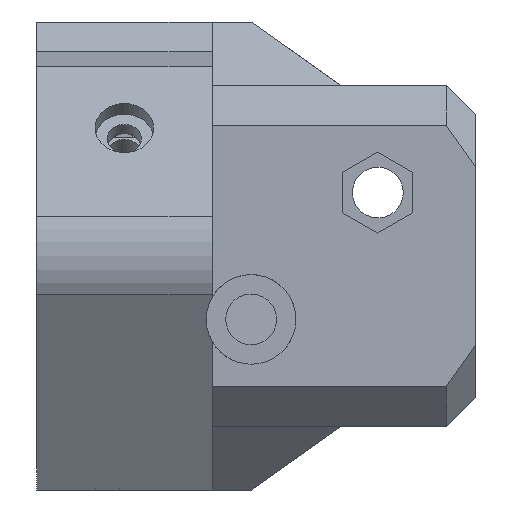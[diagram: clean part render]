
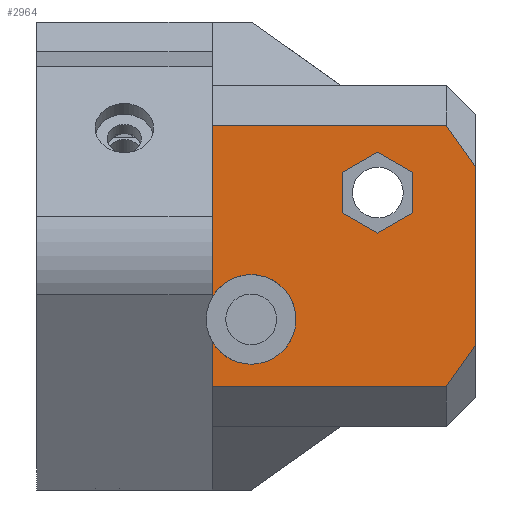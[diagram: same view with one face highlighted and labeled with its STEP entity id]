
A CAD part, left-side view. The second image highlights one B-rep face of the part: STEP entity #2964.
In plain terms, the highlighted planar face has unit normal (-1, 0, 0).
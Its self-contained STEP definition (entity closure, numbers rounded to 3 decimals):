
#65=FACE_BOUND('',#1098,.T.);
#144=LINE('',#4364,#483);
#145=LINE('',#4366,#484);
#146=LINE('',#4368,#485);
#147=LINE('',#4370,#486);
#148=LINE('',#4372,#487);
#149=LINE('',#4374,#488);
#150=LINE('',#4375,#489);
#151=LINE('',#4378,#490);
#152=LINE('',#4380,#491);
#153=LINE('',#4382,#492);
#154=LINE('',#4384,#493);
#155=LINE('',#4386,#494);
#156=LINE('',#4387,#495);
#483=VECTOR('',#3506,10.);
#484=VECTOR('',#3507,10.);
#485=VECTOR('',#3508,10.);
#486=VECTOR('',#3509,10.);
#487=VECTOR('',#3510,10.);
#488=VECTOR('',#3511,10.);
#489=VECTOR('',#3512,10.);
#490=VECTOR('',#3513,10.);
#491=VECTOR('',#3514,10.);
#492=VECTOR('',#3515,10.);
#493=VECTOR('',#3516,10.);
#494=VECTOR('',#3517,10.);
#495=VECTOR('',#3518,10.);
#799=PLANE('',#3165);
#925=FACE_OUTER_BOUND('',#1097,.T.);
#1097=EDGE_LOOP('',(#2166,#2167,#2168,#2169,#2170,#2171,#2172,#2173,#2174));
#1098=EDGE_LOOP('',(#2175,#2176,#2177,#2178,#2179,#2180));
#1307=CIRCLE('',#3166,4.6);
#1308=CIRCLE('',#3167,4.6);
#1423=VERTEX_POINT('',#4358);
#1424=VERTEX_POINT('',#4359);
#1425=VERTEX_POINT('',#4361);
#1426=VERTEX_POINT('',#4363);
#1427=VERTEX_POINT('',#4365);
#1428=VERTEX_POINT('',#4367);
#1429=VERTEX_POINT('',#4369);
#1430=VERTEX_POINT('',#4371);
#1431=VERTEX_POINT('',#4373);
#1432=VERTEX_POINT('',#4376);
#1433=VERTEX_POINT('',#4377);
#1434=VERTEX_POINT('',#4379);
#1435=VERTEX_POINT('',#4381);
#1436=VERTEX_POINT('',#4383);
#1437=VERTEX_POINT('',#4385);
#1715=EDGE_CURVE('',#1423,#1424,#1307,.T.);
#1716=EDGE_CURVE('',#1424,#1425,#1308,.T.);
#1717=EDGE_CURVE('',#1425,#1426,#144,.T.);
#1718=EDGE_CURVE('',#1426,#1427,#145,.T.);
#1719=EDGE_CURVE('',#1428,#1427,#146,.F.);
#1720=EDGE_CURVE('',#1429,#1428,#147,.T.);
#1721=EDGE_CURVE('',#1430,#1429,#148,.T.);
#1722=EDGE_CURVE('',#1431,#1430,#149,.T.);
#1723=EDGE_CURVE('',#1431,#1423,#150,.T.);
#1724=EDGE_CURVE('',#1432,#1433,#151,.T.);
#1725=EDGE_CURVE('',#1433,#1434,#152,.T.);
#1726=EDGE_CURVE('',#1434,#1435,#153,.T.);
#1727=EDGE_CURVE('',#1435,#1436,#154,.T.);
#1728=EDGE_CURVE('',#1436,#1437,#155,.T.);
#1729=EDGE_CURVE('',#1437,#1432,#156,.T.);
#2166=ORIENTED_EDGE('',*,*,#1715,.T.);
#2167=ORIENTED_EDGE('',*,*,#1716,.T.);
#2168=ORIENTED_EDGE('',*,*,#1717,.T.);
#2169=ORIENTED_EDGE('',*,*,#1718,.T.);
#2170=ORIENTED_EDGE('',*,*,#1719,.F.);
#2171=ORIENTED_EDGE('',*,*,#1720,.F.);
#2172=ORIENTED_EDGE('',*,*,#1721,.F.);
#2173=ORIENTED_EDGE('',*,*,#1722,.F.);
#2174=ORIENTED_EDGE('',*,*,#1723,.T.);
#2175=ORIENTED_EDGE('',*,*,#1724,.T.);
#2176=ORIENTED_EDGE('',*,*,#1725,.T.);
#2177=ORIENTED_EDGE('',*,*,#1726,.T.);
#2178=ORIENTED_EDGE('',*,*,#1727,.T.);
#2179=ORIENTED_EDGE('',*,*,#1728,.T.);
#2180=ORIENTED_EDGE('',*,*,#1729,.T.);
#2964=ADVANCED_FACE('',(#925,#65),#799,.T.);
#3165=AXIS2_PLACEMENT_3D('',#4357,#3500,#3501);
#3166=AXIS2_PLACEMENT_3D('',#4360,#3502,#3503);
#3167=AXIS2_PLACEMENT_3D('',#4362,#3504,#3505);
#3500=DIRECTION('center_axis',(-1.,0.,0.));
#3501=DIRECTION('ref_axis',(0.,0.,
-1.));
#3502=DIRECTION('center_axis',(1.,0.,0.));
#3503=DIRECTION('ref_axis',(0.,0.,
1.));
#3504=DIRECTION('center_axis',(1.,0.,0.));
#3505=DIRECTION('ref_axis',(0.,0.,
1.));
#3506=DIRECTION('',(0.,0.,-1.));
#3507=DIRECTION('',(0.,-1.,0.));
#3508=DIRECTION('',(0.,-0.577,0.816));
#3509=DIRECTION('',(0.,0.,-1.));
#3510=DIRECTION('',(0.,-0.577,-0.816));
#3511=DIRECTION('',(0.,-1.,0.));
#3512=DIRECTION('',(0.,0.,-1.));
#3513=DIRECTION('',(0.,-0.866,-0.5));
#3514=DIRECTION('',(0.,0.,-1.));
#3515=DIRECTION('',(0.,0.866,-0.5));
#3516=DIRECTION('',(0.,0.866,0.5));
#3517=DIRECTION('',(0.,0.,1.));
#3518=DIRECTION('',(0.,-0.866,0.5));
#4357=CARTESIAN_POINT('Origin',(-16.6,200.,17.5));
#4358=CARTESIAN_POINT('',(-16.6,200.,-4.228));
#4359=CARTESIAN_POINT('',(-16.6,196.,-11.1));
#4360=CARTESIAN_POINT('Origin',(-16.6,196.,-6.5));
#4361=CARTESIAN_POINT('',(-16.6,200.,-8.772));
#4362=CARTESIAN_POINT('Origin',(-16.6,196.,-6.5));
#4363=CARTESIAN_POINT('',(-16.6,200.,-13.4));
#4364=CARTESIAN_POINT('',(-16.6,200.,8.75));
#4365=CARTESIAN_POINT('',(-16.6,176.,-13.4));
#4366=CARTESIAN_POINT('',(-16.6,202.7,-13.4));
#4367=CARTESIAN_POINT('',(-16.6,173.,-9.157));
#4368=CARTESIAN_POINT('',(-16.6,170.543,-5.683));
#4369=CARTESIAN_POINT('',(-16.6,173.,9.157));
#4370=CARTESIAN_POINT('',(-16.6,173.,8.75));
#4371=CARTESIAN_POINT('',(-16.6,176.,13.4));
#4372=CARTESIAN_POINT('',(-16.6,178.934,17.55));
#4373=CARTESIAN_POINT('',(-16.6,200.,13.4));
#4374=CARTESIAN_POINT('',(-16.6,202.7,13.4));
#4375=CARTESIAN_POINT('',(-16.6,200.,8.75));
#4376=CARTESIAN_POINT('',(-16.6,183.,10.657));
#4377=CARTESIAN_POINT('',(-16.6,179.4,8.578));
#4378=CARTESIAN_POINT('',(-16.6,190.857,15.193));
#4379=CARTESIAN_POINT('',(-16.6,179.4,4.422));
#4380=CARTESIAN_POINT('',(-16.6,179.4,13.039));
#4381=CARTESIAN_POINT('',(-16.6,183.,2.343));
#4382=CARTESIAN_POINT('',(-16.6,184.293,1.596));
#4383=CARTESIAN_POINT('',(-16.6,186.6,4.422));
#4384=CARTESIAN_POINT('',(-16.6,192.657,7.918));
#4385=CARTESIAN_POINT('',(-16.6,186.6,8.578));
#4386=CARTESIAN_POINT('',(-16.6,186.6,10.961));
#4387=CARTESIAN_POINT('',(-16.6,189.693,6.792));
